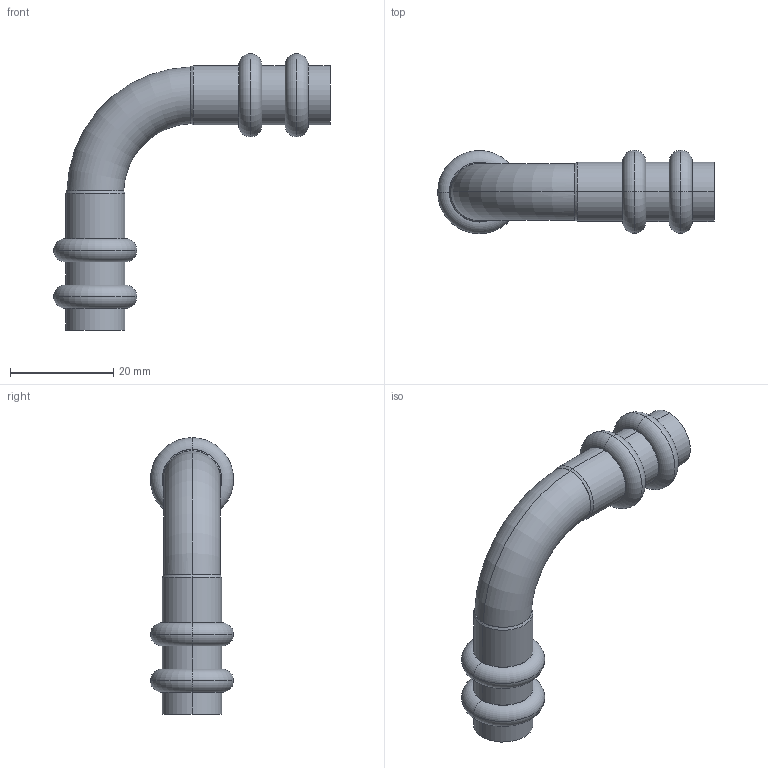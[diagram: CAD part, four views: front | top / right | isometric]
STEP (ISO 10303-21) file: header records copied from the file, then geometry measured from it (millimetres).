
FILE_DESCRIPTION(('starvars output'),'1');
FILE_NAME('cv20240422104900000011778.stp','10:49:01 2024/04/22',('Thomas Industrial Network Germany GmbH'),(' '),'Spatial InterOp 3D',' ',' ');
FILE_SCHEMA(('AUTOMOTIVE_DESIGN { 1 0 10303 214 3 1 1 }'));
Length unit declared in the file: millimetre
Products named in the file (1): 1
Bounding box: 53.55 x 16.1 x 53.55 mm (x, y, z)
Volume: 3354.6 mm3; surface area: 6463.4 mm2
Topology: 1 solids, 1 shells, 70 faces, 140 edges, 88 vertices
Faces by surface type: torus 28, cylinder 20, plane 18, cone 4
Entity records: 2700 total; most frequent: CARTESIAN_POINT 551, DIRECTION 390, ORIENTED_EDGE 280, AXIS2_PLACEMENT_3D 183, EDGE_CURVE 140, CIRCLE 112, EDGE_LOOP 88, VERTEX_POINT 88
